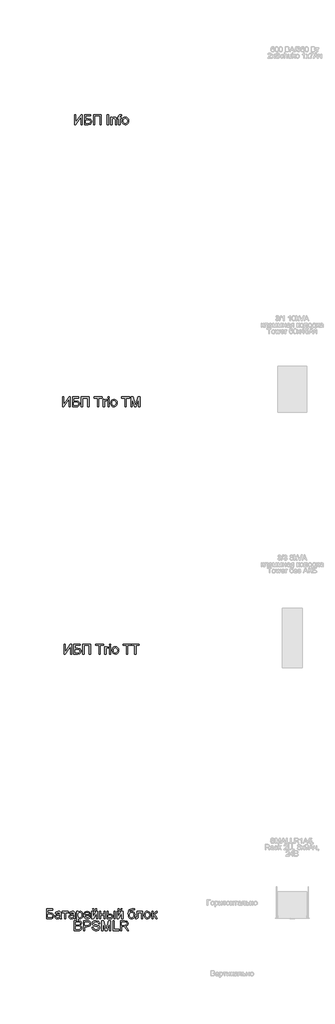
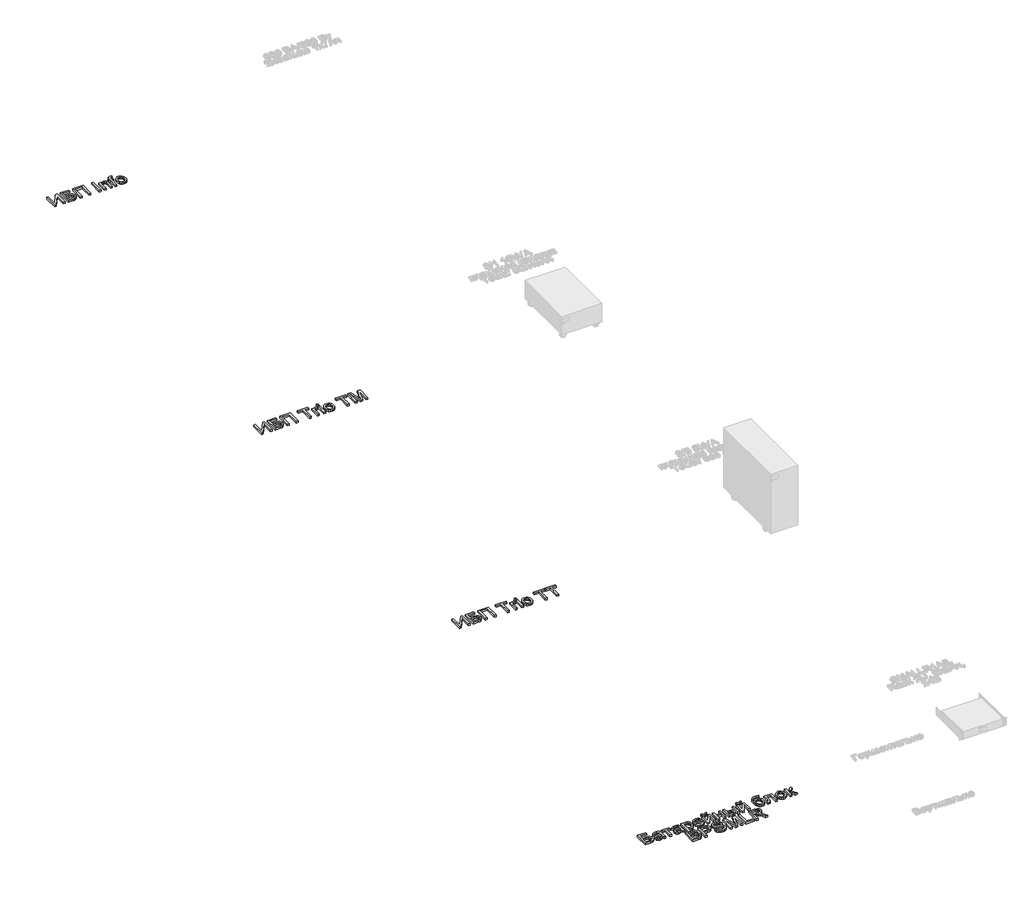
# One storey, part 7 of 74: 4 proxies.
"""IFC4 building model written with IfcOpenShell, lengths in millimetres."""

from ifc_helpers import new_model, si_unit, origin, origin_with_axes, place, context, project, spatial, polyline, outline, extrude, element, save

model = new_model("IFC4")

# Units and contexts
model_context = context("Model", 3, world=origin())
ifc_project = project(units=[si_unit("LENGTHUNIT", "METRE", prefix="MILLI")], contexts=[model_context])

# Site, building, storey
site = spatial("IfcSite", under=ifc_project)
building = spatial("IfcBuilding", under=site)
storey = spatial("IfcBuildingStorey", under=building, Name="Этаж 01", Elevation=0.0)

# Proxies
placement = place(None, origin())
element("IfcBuildingElementProxy", 1, Name="150 мм Arial", ObjectType="150 мм Arial", at=placement, inside=storey, context=model_context, shape_type="SweptSolid", body=[
    extrude(outline(polyline([(-1970.8871064, -11984.3646138), (-1952.0515483, -11984.3646138), (-1952.0515483, -12103.705533), (-1873.1776485, -11984.3646138), (-1853.164868, -11984.3646138), (-1853.164868, -12135.049079), (-1872.0004261, -12135.049079), (-1872.0004261, -12016.0392536), (-1950.6903849, -12135.049079), (-1970.8871064, -12135.049079), (-1970.8871064, -11984.3646138)])), origin_with_axes(), (0.0, 0.0, 1.0), 20.0),
    extrude(outline(polyline([(-1820.2026412, -11984.3646138), (-1726.0248504, -11984.3646138), (-1726.0248504, -12003.2001719), (-1801.367083, -12003.2001719), (-1801.367083, -12047.9346225), (-1766.0871997, -12047.9346225), (-1735.0011711, -12051.7605953), (-1724.5993077, -12057.2880223), (-1716.4967068, -12066.2183577), (-1711.2819795, -12077.7146701), (-1709.5437371, -12090.9400278), (-1714.4917499, -12112.4059422), (-1729.262212, -12128.7215087), (-1742.533555, -12133.4671864), (-1762.7026854, -12135.049079), (-1820.2026412, -12135.049079), (-1820.2026412, -11984.3646138)]), holes=[polyline([(-1801.367083, -12116.2135209), (-1761.0104282, -12116.2135209), (-1746.7458038, -12114.6592194), (-1736.5462755, -12109.9963151), (-1730.4210403, -12102.224808), (-1728.3792952, -12091.344698), (-1733.0513965, -12076.59263), (-1746.0560251, -12068.7199553), (-1774.438121, -12066.7701807), (-1801.367083, -12066.7701807), (-1801.367083, -12116.2135209)])]), origin_with_axes(), (0.0, 0.0, 1.0), 20.0),
    extrude(outline(polyline([(-1683.6448446, -11984.3646138), (-1565.9226061, -11984.3646138), (-1565.9226061, -12135.049079), (-1584.7581643, -12135.049079), (-1584.7581643, -12003.2001719), (-1664.8092864, -12003.2001719), (-1664.8092864, -12135.049079), (-1683.6448446, -12135.049079), (-1683.6448446, -11984.3646138)])), origin_with_axes(), (0.0, 0.0, 1.0), 20.0),
    extrude(outline(polyline([(-1471.7448154, -12135.049079), (-1471.7448154, -11984.3646138), (-1452.9092572, -11984.3646138), (-1452.9092572, -12135.049079), (-1471.7448154, -12135.049079)])), origin_with_axes(), (0.0, 0.0, 1.0), 20.0),
    extrude(outline(polyline([(-1417.5925857, -12135.049079), (-1417.5925857, -12024.3901749), (-1398.7570275, -12024.3901749), (-1398.7570275, -12039.8412187), (-1384.3544474, -12026.4871022), (-1364.6911548, -12022.0357301), (-1346.9040603, -12025.6225795), (-1334.7639545, -12035.0403586), (-1329.1169658, -12048.8911157), (-1328.1236845, -12067.1012745), (-1328.1236845, -12135.049079), (-1346.9592426, -12135.049079), (-1346.9592426, -12069.6396603), (-1349.1297464, -12052.9746059), (-1356.800086, -12044.1638321), (-1369.7311381, -12040.8712882), (-1380.7629994, -12042.7198953), (-1390.1669829, -12048.2657163), (-1396.6095164, -12058.9802795), (-1398.7570275, -12076.3351126), (-1398.7570275, -12135.049079), (-1417.5925857, -12135.049079)])), origin_with_axes(), (0.0, 0.0, 1.0), 20.0),
    extrude(outline(polyline([(-1297.5159025, -12135.049079), (-1297.5159025, -12043.225733), (-1313.9970158, -12043.225733), (-1313.9970158, -12024.3901749), (-1297.5159025, -12024.3901749), (-1297.5159025, -12013.2433504), (-1295.5293397, -11997.5347892), (-1285.8908314, -11986.3143884), (-1266.9081205, -11982.010169), (-1249.7280313, -11984.0703082), (-1252.4871462, -12001.728644), (-1263.3396651, -12000.8457272), (-1275.2038594, -12003.9727241), (-1278.6803443, -12015.6345834), (-1278.6803443, -12024.3901749), (-1257.4903414, -12024.3901749), (-1257.4903414, -12043.225733), (-1278.6803443, -12043.225733), (-1278.6803443, -12135.049079), (-1297.5159025, -12135.049079)])), origin_with_axes(), (0.0, 0.0, 1.0), 20.0),
    extrude(outline(polyline([(-1245.7181175, -12079.7196269), (-1241.6438244, -12053.0389852), (-1229.4209451, -12034.2862005), (-1214.3193892, -12025.0983477), (-1196.2379892, -12022.0357301), (-1176.4505364, -12025.7651338), (-1160.6454061, -12036.953345), (-1150.2849295, -12054.7174468), (-1146.8314372, -12078.1745225), (-1148.3581475, -12097.2032187), (-1152.9382783, -12111.6885723), (-1160.4384725, -12122.5364926), (-1170.7253728, -12130.6528892), (-1182.9436536, -12135.7158651), (-1196.2379892, -12137.4035238), (-1216.2645653, -12133.6879156), (-1232.0513014, -12122.5410912), (-1242.3014135, -12104.4045088), (-1245.7181175, -12079.7196269)]), holes=[polyline([(-1226.8825594, -12079.6828387), (-1224.7028586, -12096.7295707), (-1218.1637561, -12108.874275), (-1208.3229127, -12116.144543), (-1196.2379892, -12118.5679656), (-1184.2082479, -12116.1307474), (-1174.3857987, -12108.8190927), (-1167.8466962, -12096.51344), (-1165.6669954, -12079.0942275), (-1167.8604918, -12062.5441363), (-1174.440981, -12050.5649788), (-1184.2772258, -12043.2947109), (-1196.2379892, -12040.8712882), (-1208.3229127, -12043.2855138), (-1218.1637561, -12050.5281906), (-1224.7028586, -12062.6453038), (-1226.8825594, -12079.6828387)])]), origin_with_axes(), (0.0, 0.0, 1.0), 20.0),
])
element("IfcBuildingElementProxy", 2, Name="150 мм Arial", ObjectType="150 мм Arial", at=placement, inside=storey, context=model_context, shape_type="SweptSolid", body=[
    extrude(outline(polyline([(-2154.5337984, -16284.3646138), (-2135.6982403, -16284.3646138), (-2135.6982403, -16403.705533), (-2056.8243405, -16284.3646138), (-2036.81156, -16284.3646138), (-2036.81156, -16435.049079), (-2055.6471181, -16435.049079), (-2055.6471181, -16316.0392536), (-2134.3370769, -16435.049079), (-2154.5337984, -16435.049079), (-2154.5337984, -16284.3646138)])), origin_with_axes(), (0.0, 0.0, 1.0), 20.0),
    extrude(outline(polyline([(-2003.8493332, -16284.3646138), (-1909.6715424, -16284.3646138), (-1909.6715424, -16303.2001719), (-1985.013775, -16303.2001719), (-1985.013775, -16347.9346225), (-1949.7338917, -16347.9346225), (-1918.6478631, -16351.7605953), (-1908.2459997, -16357.2880223), (-1900.1433988, -16366.2183577), (-1894.9286715, -16377.7146701), (-1893.190429, -16390.9400278), (-1898.1384419, -16412.4059422), (-1912.908904, -16428.7215087), (-1926.180247, -16433.4671864), (-1946.3493773, -16435.049079), (-2003.8493332, -16435.049079), (-2003.8493332, -16284.3646138)]), holes=[polyline([(-1985.013775, -16416.2135209), (-1944.6571202, -16416.2135209), (-1930.3924958, -16414.6592194), (-1920.1929675, -16409.9963151), (-1914.0677323, -16402.224808), (-1912.0259872, -16391.344698), (-1916.6980885, -16376.59263), (-1929.7027171, -16368.7199553), (-1958.084813, -16366.7701807), (-1985.013775, -16366.7701807), (-1985.013775, -16416.2135209)])]), origin_with_axes(), (0.0, 0.0, 1.0), 20.0),
    extrude(outline(polyline([(-1867.2915366, -16284.3646138), (-1749.5692981, -16284.3646138), (-1749.5692981, -16435.049079), (-1768.4048563, -16435.049079), (-1768.4048563, -16303.2001719), (-1848.4559784, -16303.2001719), (-1848.4559784, -16435.049079), (-1867.2915366, -16435.049079), (-1867.2915366, -16284.3646138)])), origin_with_axes(), (0.0, 0.0, 1.0), 20.0),
    extrude(outline(polyline([(-1620.0748358, -16435.049079), (-1620.0748358, -16303.2001719), (-1669.518176, -16303.2001719), (-1669.518176, -16284.3646138), (-1551.7959375, -16284.3646138), (-1551.7959375, -16303.2001719), (-1601.2392777, -16303.2001719), (-1601.2392777, -16435.049079), (-1620.0748358, -16435.049079)])), origin_with_axes(), (0.0, 0.0, 1.0), 20.0),
    extrude(outline(polyline([(-1532.9603794, -16435.049079), (-1532.9603794, -16324.3901749), (-1516.479266, -16324.3901749), (-1516.479266, -16340.7609236), (-1504.7806185, -16325.6777618), (-1493.0083947, -16322.0357301), (-1474.0992601, -16327.8482656), (-1480.3900423, -16344.7340492), (-1493.6337941, -16340.8712882), (-1504.2839778, -16344.5868964), (-1511.0714007, -16354.8875923), (-1514.1248212, -16376.8869356), (-1514.1248212, -16435.049079), (-1532.9603794, -16435.049079)])), origin_with_axes(), (0.0, 0.0, 1.0), 20.0),
    extrude(outline(polyline([(-1462.3270363, -16303.2001719), (-1462.3270363, -16284.3646138), (-1443.4914781, -16284.3646138), (-1443.4914781, -16303.2001719), (-1462.3270363, -16303.2001719)])), origin_with_axes(), (0.0, 0.0, 1.0), 20.0),
    extrude(outline(polyline([(-1462.3270363, -16435.049079), (-1462.3270363, -16324.3901749), (-1443.4914781, -16324.3901749), (-1443.4914781, -16435.049079), (-1462.3270363, -16435.049079)])), origin_with_axes(), (0.0, 0.0, 1.0), 20.0),
    extrude(outline(polyline([(-1419.9470304, -16379.7196269), (-1415.8727374, -16353.0389852), (-1403.6498581, -16334.2862005), (-1388.5483022, -16325.0983477), (-1370.4669021, -16322.0357301), (-1350.6794493, -16325.7651338), (-1334.8743191, -16336.953345), (-1324.5138424, -16354.7174468), (-1321.0603501, -16378.1745225), (-1322.5870604, -16397.2032187), (-1327.1671913, -16411.6885723), (-1334.6673854, -16422.5364926), (-1344.9542857, -16430.6528892), (-1357.1725665, -16435.7158651), (-1370.4669021, -16437.4035238), (-1390.4934782, -16433.6879156), (-1406.2802143, -16422.5410912), (-1416.5303264, -16404.4045088), (-1419.9470304, -16379.7196269)]), holes=[polyline([(-1401.1114723, -16379.6828387), (-1398.9317715, -16396.7295707), (-1392.392669, -16408.874275), (-1382.5518256, -16416.144543), (-1370.4669021, -16418.5679656), (-1358.4371609, -16416.1307474), (-1348.6147116, -16408.8190927), (-1342.0756091, -16396.51344), (-1339.8959083, -16379.0942275), (-1342.0894047, -16362.5441363), (-1348.6698939, -16350.5649788), (-1358.5061387, -16343.2947109), (-1370.4669021, -16340.8712882), (-1382.5518256, -16343.2855138), (-1392.392669, -16350.5281906), (-1398.9317715, -16362.6453038), (-1401.1114723, -16379.6828387)])]), origin_with_axes(), (0.0, 0.0, 1.0), 20.0),
    extrude(outline(polyline([(-1200.9836669, -16435.049079), (-1200.9836669, -16303.2001719), (-1250.4270071, -16303.2001719), (-1250.4270071, -16284.3646138), (-1132.7047686, -16284.3646138), (-1132.7047686, -16303.2001719), (-1182.1481088, -16303.2001719), (-1182.1481088, -16435.049079), (-1200.9836669, -16435.049079)])), origin_with_axes(), (0.0, 0.0, 1.0), 20.0),
    extrude(outline(polyline([(-1111.5147657, -16435.049079), (-1111.5147657, -16284.3646138), (-1079.1043619, -16284.3646138), (-1048.2758507, -16390.5721458), (-1042.058645, -16412.7554301), (-1035.3264045, -16388.7327358), (-1005.0129281, -16284.3646138), (-972.6025243, -16284.3646138), (-972.6025243, -16435.049079), (-991.4380825, -16435.049079), (-991.4380825, -16303.2001719), (-1029.2931398, -16435.049079), (-1054.8241502, -16435.049079), (-1092.6792075, -16303.2001719), (-1092.6792075, -16435.049079), (-1111.5147657, -16435.049079)])), origin_with_axes(), (0.0, 0.0, 1.0), 20.0),
])
element("IfcBuildingElementProxy", 3, Name="150 мм Arial", ObjectType="150 мм Arial", at=placement, inside=storey, context=model_context, shape_type="SweptSolid", body=[
    extrude(outline(polyline([(-2132.1665731, -20053.7853321), (-2113.331015, -20053.7853321), (-2113.331015, -20173.1262513), (-2034.4571152, -20053.7853321), (-2014.4443347, -20053.7853321), (-2014.4443347, -20204.4697973), (-2033.2798928, -20204.4697973), (-2033.2798928, -20085.4599719), (-2111.9698516, -20204.4697973), (-2132.1665731, -20204.4697973), (-2132.1665731, -20053.7853321)])), origin_with_axes(), (0.0, 0.0, 1.0), 20.0),
    extrude(outline(polyline([(-1981.4821079, -20053.7853321), (-1887.3043171, -20053.7853321), (-1887.3043171, -20072.6208903), (-1962.6465497, -20072.6208903), (-1962.6465497, -20117.3553409), (-1927.3666664, -20117.3553409), (-1896.2806378, -20121.1813136), (-1885.8787744, -20126.7087406), (-1877.7761734, -20135.639076), (-1872.5614462, -20147.1353884), (-1870.8232037, -20160.3607461), (-1875.7712166, -20181.8266605), (-1890.5416787, -20198.142227), (-1903.8130217, -20202.8879047), (-1923.982152, -20204.4697973), (-1981.4821079, -20204.4697973), (-1981.4821079, -20053.7853321)]), holes=[polyline([(-1962.6465497, -20185.6342392), (-1922.2898949, -20185.6342392), (-1908.0252705, -20184.0799377), (-1897.8257422, -20179.4170335), (-1891.700507, -20171.6455263), (-1889.6587619, -20160.7654163), (-1894.3308632, -20146.0133483), (-1907.3354918, -20138.1406736), (-1935.7175877, -20136.190899), (-1962.6465497, -20136.190899), (-1962.6465497, -20185.6342392)])]), origin_with_axes(), (0.0, 0.0, 1.0), 20.0),
    extrude(outline(polyline([(-1844.9243113, -20053.7853321), (-1727.2020728, -20053.7853321), (-1727.2020728, -20204.4697973), (-1746.037631, -20204.4697973), (-1746.037631, -20072.6208903), (-1826.0887531, -20072.6208903), (-1826.0887531, -20204.4697973), (-1844.9243113, -20204.4697973), (-1844.9243113, -20053.7853321)])), origin_with_axes(), (0.0, 0.0, 1.0), 20.0),
    extrude(outline(polyline([(-1597.7076105, -20204.4697973), (-1597.7076105, -20072.6208903), (-1647.1509507, -20072.6208903), (-1647.1509507, -20053.7853321), (-1529.4287122, -20053.7853321), (-1529.4287122, -20072.6208903), (-1578.8720524, -20072.6208903), (-1578.8720524, -20204.4697973), (-1597.7076105, -20204.4697973)])), origin_with_axes(), (0.0, 0.0, 1.0), 20.0),
    extrude(outline(polyline([(-1510.5931541, -20204.4697973), (-1510.5931541, -20093.8108932), (-1494.1120407, -20093.8108932), (-1494.1120407, -20110.181642), (-1482.4133932, -20095.0984802), (-1470.6411694, -20091.4564484), (-1451.7320348, -20097.2689839), (-1458.0228169, -20114.1547675), (-1471.2665688, -20110.2920066), (-1481.9167525, -20114.0076147), (-1488.7041753, -20124.3083106), (-1491.7575959, -20146.3076539), (-1491.7575959, -20204.4697973), (-1510.5931541, -20204.4697973)])), origin_with_axes(), (0.0, 0.0, 1.0), 20.0),
    extrude(outline(polyline([(-1439.959811, -20072.6208903), (-1439.959811, -20053.7853321), (-1421.1242528, -20053.7853321), (-1421.1242528, -20072.6208903), (-1439.959811, -20072.6208903)])), origin_with_axes(), (0.0, 0.0, 1.0), 20.0),
    extrude(outline(polyline([(-1439.959811, -20204.4697973), (-1439.959811, -20093.8108932), (-1421.1242528, -20093.8108932), (-1421.1242528, -20204.4697973), (-1439.959811, -20204.4697973)])), origin_with_axes(), (0.0, 0.0, 1.0), 20.0),
    extrude(outline(polyline([(-1397.5798051, -20149.1403452), (-1393.505512, -20122.4597035), (-1381.2826328, -20103.7069188), (-1366.1810769, -20094.519066), (-1348.0996768, -20091.4564484), (-1328.312224, -20095.1858521), (-1312.5070938, -20106.3740633), (-1302.1466171, -20124.1381652), (-1298.6931248, -20147.5952409), (-1300.2198351, -20166.6239371), (-1304.799966, -20181.1092906), (-1312.3001601, -20191.957211), (-1322.5870604, -20200.0736075), (-1334.8053412, -20205.1365834), (-1348.0996768, -20206.8242421), (-1368.1262529, -20203.1086339), (-1383.912989, -20191.9618095), (-1394.1631011, -20173.8252271), (-1397.5798051, -20149.1403452)]), holes=[polyline([(-1378.744247, -20149.1035571), (-1376.5645462, -20166.150289), (-1370.0254437, -20178.2949934), (-1360.1846003, -20185.5652613), (-1348.0996768, -20187.9886839), (-1336.0699355, -20185.5514657), (-1326.2474863, -20178.2398111), (-1319.7083838, -20165.9341583), (-1317.528683, -20148.5149459), (-1319.7221794, -20131.9648546), (-1326.3026686, -20119.9856971), (-1336.1389134, -20112.7154292), (-1348.0996768, -20110.2920066), (-1360.1846003, -20112.7062322), (-1370.0254437, -20119.9489089), (-1376.5645462, -20132.0660221), (-1378.744247, -20149.1035571)])]), origin_with_axes(), (0.0, 0.0, 1.0), 20.0),
    extrude(outline(polyline([(-1178.6164416, -20204.4697973), (-1178.6164416, -20072.6208903), (-1228.0597818, -20072.6208903), (-1228.0597818, -20053.7853321), (-1110.3375433, -20053.7853321), (-1110.3375433, -20072.6208903), (-1159.7808835, -20072.6208903), (-1159.7808835, -20204.4697973), (-1178.6164416, -20204.4697973)])), origin_with_axes(), (0.0, 0.0, 1.0), 20.0),
    extrude(outline(polyline([(-1051.4764241, -20204.4697973), (-1051.4764241, -20072.6208903), (-1100.9197642, -20072.6208903), (-1100.9197642, -20053.7853321), (-983.1975258, -20053.7853321), (-983.1975258, -20072.6208903), (-1032.6408659, -20072.6208903), (-1032.6408659, -20204.4697973), (-1051.4764241, -20204.4697973)])), origin_with_axes(), (0.0, 0.0, 1.0), 20.0),
])
element("IfcBuildingElementProxy", 4, Name="150 мм Arial", ObjectType="150 мм Arial", at=placement, inside=storey, context=model_context, shape_type="SweptSolid", body=[
    extrude(outline(polyline([(-2399.3960544, -24086.4527248), (-2305.2182636, -24086.4527248), (-2305.2182636, -24105.2882829), (-2380.5604963, -24105.2882829), (-2380.5604963, -24150.0227335), (-2345.2806129, -24150.0227335), (-2314.1945843, -24153.8487063), (-2303.7927209, -24159.3761333), (-2295.69012, -24168.3064687), (-2290.4753927, -24179.802781), (-2288.7371503, -24193.0281388), (-2293.6851631, -24214.4940532), (-2308.4556252, -24230.8096197), (-2321.7269682, -24235.5552974), (-2341.8960986, -24237.13719), (-2399.3960544, -24237.13719), (-2399.3960544, -24086.4527248)]), holes=[polyline([(-2380.5604963, -24218.3016318), (-2340.2038414, -24218.3016318), (-2325.939217, -24216.7473304), (-2315.7396887, -24212.0844261), (-2309.6144535, -24204.312919), (-2307.5727084, -24193.432809), (-2312.2448098, -24178.680741), (-2325.2494383, -24170.8080663), (-2353.6315342, -24168.8582917), (-2380.5604963, -24168.8582917), (-2380.5604963, -24218.3016318)])]), origin_with_axes(), (0.0, 0.0, 1.0), 20.0),
    extrude(outline(polyline([(-2194.5593595, -24223.0105214), (-2212.8247006, -24235.7760266), (-2233.003028, -24239.4916348), (-2248.7437789, -24237.2567516), (-2260.3550543, -24230.5521023), (-2267.5149577, -24220.3709681), (-2269.9015921, -24207.7066304), (-2266.2963486, -24192.8074096), (-2256.8233872, -24181.9916789), (-2243.6348176, -24175.8112614), (-2227.3376453, -24172.97857), (-2194.6697241, -24166.5038469), (-2194.5593595, -24162.3099922), (-2195.8561435, -24153.9038886), (-2199.7464956, -24148.4040528), (-2208.4469048, -24144.3205626), (-2220.5686166, -24142.9593992), (-2239.6249039, -24146.5830369), (-2248.7115892, -24159.4405126), (-2267.5471473, -24157.0860678), (-2259.3985611, -24138.6919681), (-2242.9910242, -24127.9130256), (-2218.1405954, -24124.1238411), (-2195.3135176, -24127.4715672), (-2182.4192537, -24135.8776708), (-2176.6435063, -24148.6615702), (-2175.7238013, -24165.1426835), (-2175.7238013, -24188.5767666), (-2174.7673082, -24221.2998701), (-2171.0149118, -24237.13719), (-2189.85047, -24237.13719), (-2194.5593595, -24223.0105214)]), holes=[polyline([(-2194.5593595, -24185.3394051), (-2224.9464123, -24191.1151524), (-2241.1516142, -24194.168573), (-2248.49086, -24199.1349799), (-2251.066034, -24206.3822552), (-2245.4558335, -24216.5725865), (-2228.9931142, -24220.6560766), (-2209.9368269, -24216.1495222), (-2197.6495683, -24205.241821), (-2194.6697241, -24190.673694), (-2194.5593595, -24185.3394051)])]), origin_with_axes(), (0.0, 0.0, 1.0), 20.0),
    extrude(outline(polyline([(-2159.242688, -24126.4782858), (-2069.7737867, -24126.4782858), (-2069.7737867, -24145.313844), (-2105.0904583, -24145.313844), (-2105.0904583, -24237.13719), (-2123.9260164, -24237.13719), (-2123.9260164, -24145.313844), (-2159.242688, -24145.313844), (-2159.242688, -24126.4782858)])), origin_with_axes(), (0.0, 0.0, 1.0), 20.0),
    extrude(outline(polyline([(-1982.6593303, -24223.0105214), (-2000.9246713, -24235.7760266), (-2021.1029988, -24239.4916348), (-2036.8437496, -24237.2567516), (-2048.4550251, -24230.5521023), (-2055.6149284, -24220.3709681), (-2058.0015629, -24207.7066304), (-2054.3963193, -24192.8074096), (-2044.923358, -24181.9916789), (-2031.7347884, -24175.8112614), (-2015.437616, -24172.97857), (-1982.7696949, -24166.5038469), (-1982.6593303, -24162.3099922), (-1983.9561143, -24153.9038886), (-1987.8464664, -24148.4040528), (-1996.5468756, -24144.3205626), (-2008.6685873, -24142.9593992), (-2027.7248747, -24146.5830369), (-2036.81156, -24159.4405126), (-2055.6471181, -24157.0860678), (-2047.4985319, -24138.6919681), (-2031.0909949, -24127.9130256), (-2006.2405662, -24124.1238411), (-1983.4134884, -24127.4715672), (-1970.5192244, -24135.8776708), (-1964.7434771, -24148.6615702), (-1963.8237721, -24165.1426835), (-1963.8237721, -24188.5767666), (-1962.8672789, -24221.2998701), (-1959.1148826, -24237.13719), (-1977.9504407, -24237.13719), (-1982.6593303, -24223.0105214)]), holes=[polyline([(-1982.6593303, -24185.3394051), (-2013.0463831, -24191.1151524), (-2029.251585, -24194.168573), (-2036.5908308, -24199.1349799), (-2039.1660047, -24206.3822552), (-2033.5558043, -24216.5725865), (-2017.093085, -24220.6560766), (-1998.0367977, -24216.1495222), (-1985.749539, -24205.241821), (-1982.7696949, -24190.673694), (-1982.6593303, -24185.3394051)])]), origin_with_axes(), (0.0, 0.0, 1.0), 20.0),
    extrude(outline(polyline([(-1937.9248797, -24279.5171958), (-1937.9248797, -24126.4782858), (-1919.0893215, -24126.4782858), (-1919.0893215, -24144.945962), (-1906.0662989, -24129.3293713), (-1888.4815395, -24124.1238411), (-1875.7436254, -24125.944857), (-1864.605998, -24131.4079046), (-1855.5377068, -24140.1818902), (-1849.0078014, -24151.9357199), (-1843.7470889, -24180.9616093), (-1845.2324124, -24197.0702422), (-1849.6883831, -24211.4774208), (-1856.9724466, -24223.4519798), (-1866.9420487, -24232.2627536), (-1878.5533242, -24237.6844145), (-1890.7624079, -24239.4916348), (-1907.1515508, -24234.6539865), (-1919.0893215, -24222.4219102), (-1919.0893215, -24279.5171958), (-1937.9248797, -24279.5171958)]), holes=[polyline([(-1919.0893215, -24182.6906547), (-1917.052175, -24199.5764383), (-1910.9407353, -24211.3854503), (-1901.9230279, -24218.33842), (-1891.1670781, -24220.6560766), (-1880.2363843, -24218.2556466), (-1870.9887506, -24211.0543565), (-1864.6841729, -24198.8130831), (-1862.582647, -24181.2927031), (-1864.6335892, -24164.49889), (-1870.7864155, -24152.5243311), (-1879.7903274, -24145.3506322), (-1890.3945259, -24142.9593992), (-1901.0401111, -24145.5023835), (-1910.3889123, -24153.1313364), (-1916.9142192, -24165.6071346), (-1919.0893215, -24182.6906547)])]), origin_with_axes(), (0.0, 0.0, 1.0), 20.0),
    extrude(outline(polyline([(-1745.0811378, -24204.1749632), (-1726.6134616, -24206.529408), (-1733.2675272, -24220.4445445), (-1743.8855213, -24230.8464079), (-1758.2283206, -24237.330328), (-1776.0568018, -24239.4916348), (-1798.1573126, -24235.762231), (-1815.1626579, -24224.5740199), (-1826.0059797, -24206.6535682), (-1829.6204203, -24182.7274429), (-1825.9691915, -24157.9965758), (-1815.0155051, -24139.5013085), (-1798.2400861, -24127.9682079), (-1777.1236596, -24124.1238411), (-1756.6648221, -24127.9590109), (-1740.3170659, -24139.4645203), (-1729.5979043, -24157.9229994), (-1726.0248504, -24182.6170783), (-1726.135215, -24187.6938498), (-1810.7848621, -24187.6938498), (-1807.5245079, -24201.7929273), (-1799.9507374, -24212.1580025), (-1789.0200436, -24218.5315581), (-1775.6889198, -24220.6560766), (-1757.2212436, -24216.7197393), (-1745.0811378, -24204.1749632)]), holes=[polyline([(-1810.7848621, -24168.8582917), (-1744.8604086, -24168.8582917), (-1747.4079914, -24158.9070837), (-1752.4019895, -24151.7885671), (-1763.383267, -24145.1666912), (-1777.197236, -24142.9593992), (-1789.8937633, -24144.7206343), (-1800.3921958, -24150.0043394), (-1807.6900548, -24158.2402976), (-1810.7848621, -24168.8582917)])]), origin_with_axes(), (0.0, 0.0, 1.0), 20.0),
    extrude(outline(polyline([(-1645.9737283, -24086.4527248), (-1631.8470597, -24086.4527248), (-1634.8866847, -24098.5146557), (-1640.9889273, -24107.4036044), (-1649.877876, -24112.8804476), (-1661.2776193, -24114.706062), (-1673.6476514, -24112.8942432), (-1683.2401744, -24107.4587867), (-1689.797671, -24098.5836336), (-1693.0626237, -24086.4527248), (-1678.9359551, -24086.4527248), (-1673.6384543, -24097.0661203), (-1662.9698765, -24100.5793934), (-1651.271229, -24097.1764849), (-1645.9737283, -24086.4527248)])), origin_with_axes(), (0.0, 0.0, 1.0), 20.0),
    extrude(outline(polyline([(-1707.1892923, -24126.4782858), (-1688.3537341, -24126.4782858), (-1688.3537341, -24210.8704155), (-1642.0741791, -24126.4782858), (-1617.7203911, -24126.4782858), (-1617.7203911, -24237.13719), (-1636.5559492, -24237.13719), (-1636.5559492, -24153.2600951), (-1682.5411986, -24237.13719), (-1707.1892923, -24237.13719), (-1707.1892923, -24126.4782858)])), origin_with_axes(), (0.0, 0.0, 1.0), 20.0),
    extrude(outline(polyline([(-1589.4670538, -24126.4782858), (-1570.6314957, -24126.4782858), (-1570.6314957, -24168.8582917), (-1521.1881555, -24168.8582917), (-1521.1881555, -24126.4782858), (-1502.3525974, -24126.4782858), (-1502.3525974, -24237.13719), (-1521.1881555, -24237.13719), (-1521.1881555, -24187.6938498), (-1570.6314957, -24187.6938498), (-1570.6314957, -24237.13719), (-1589.4670538, -24237.13719), (-1589.4670538, -24126.4782858)])), origin_with_axes(), (0.0, 0.0, 1.0), 20.0),
    extrude(outline(polyline([(-1474.0992601, -24126.4782858), (-1455.263702, -24126.4782858), (-1455.263702, -24166.5038469), (-1431.9767717, -24166.5038469), (-1411.849028, -24168.8628902), (-1396.9360117, -24175.9400201), (-1387.7067721, -24187.1650195), (-1384.6303589, -24201.9676713), (-1387.2101314, -24215.4459479), (-1394.9494489, -24226.8181), (-1408.3541491, -24234.5574175), (-1427.9300697, -24237.13719), (-1474.0992601, -24237.13719), (-1474.0992601, -24126.4782858)]), holes=[polyline([(-1455.263702, -24218.3016318), (-1435.913109, -24218.3016318), (-1410.9339216, -24214.3469004), (-1405.3329182, -24209.2839244), (-1403.4659171, -24202.0044595), (-1409.0025411, -24190.4161766), (-1417.8822928, -24186.608598), (-1433.4482997, -24185.3394051), (-1455.263702, -24185.3394051), (-1455.263702, -24218.3016318)])]), origin_with_axes(), (0.0, 0.0, 1.0), 20.0),
    extrude(outline(polyline([(-1370.5036903, -24126.4782858), (-1351.6681321, -24126.4782858), (-1351.6681321, -24237.13719), (-1370.5036903, -24237.13719), (-1370.5036903, -24126.4782858)])), origin_with_axes(), (0.0, 0.0, 1.0), 20.0),
    extrude(outline(polyline([(-1262.1992309, -24086.4527248), (-1248.0725623, -24086.4527248), (-1251.1121873, -24098.5146557), (-1257.2144299, -24107.4036044), (-1266.1033786, -24112.8804476), (-1277.5031219, -24114.706062), (-1289.873154, -24112.8942432), (-1299.465677, -24107.4587867), (-1306.0231736, -24098.5836336), (-1309.2881263, -24086.4527248), (-1295.1614577, -24086.4527248), (-1289.863957, -24097.0661203), (-1279.1953791, -24100.5793934), (-1267.4967316, -24097.1764849), (-1262.1992309, -24086.4527248)])), origin_with_axes(), (0.0, 0.0, 1.0), 20.0),
    extrude(outline(polyline([(-1323.4147949, -24126.4782858), (-1304.5792368, -24126.4782858), (-1304.5792368, -24210.8704155), (-1258.2996818, -24126.4782858), (-1233.9458937, -24126.4782858), (-1233.9458937, -24237.13719), (-1252.7814518, -24237.13719), (-1252.7814518, -24153.2600951), (-1298.7667012, -24237.13719), (-1323.4147949, -24237.13719), (-1323.4147949, -24126.4782858)])), origin_with_axes(), (0.0, 0.0, 1.0), 20.0),
    extrude(outline(polyline([(-1069.1347598, -24084.09828), (-1052.6536465, -24084.09828), (-1057.5096888, -24098.7951657), (-1067.1114089, -24104.1110605), (-1090.17761, -24105.2882829), (-1121.2452445, -24109.6292905), (-1128.3729581, -24115.2762791), (-1133.1646211, -24123.5352299), (-1137.192929, -24148.1465354), (-1120.8773625, -24130.1203176), (-1110.9583442, -24125.6229602), (-1099.8529064, -24124.1238411), (-1080.2539932, -24127.9360183), (-1064.3522939, -24139.3725498), (-1053.8124747, -24157.3113956), (-1050.2992017, -24180.6305155), (-1052.0420426, -24198.6107481), (-1057.2705655, -24213.0409193), (-1073.8068612, -24232.5938474), (-1085.1008384, -24237.7671879), (-1099.8529064, -24239.4916348), (-1116.8536531, -24237.2705472), (-1129.5961658, -24230.6072846), (-1138.9725581, -24220.4813327), (-1145.874944, -24207.8721773), (-1150.1239811, -24188.8848678), (-1151.5403268, -24159.6244536), (-1147.9672729, -24123.4846461), (-1137.2481113, -24101.4439161), (-1119.1161274, -24090.2005226), (-1093.3046069, -24086.4527248), (-1072.3353332, -24086.0296605), (-1069.1347598, -24084.09828)]), holes=[polyline([(-1069.1347598, -24180.0419043), (-1071.1765049, -24165.2208585), (-1077.3017401, -24153.3520656), (-1087.1425835, -24145.5575658), (-1100.331153, -24142.9593992), (-1114.0807426, -24145.7047186), (-1124.2802709, -24153.9406768), (-1130.5986442, -24166.7659628), (-1132.7047686, -24183.2792659), (-1130.377915, -24199.2867312), (-1123.3973541, -24211.0359624), (-1113.0046878, -24218.2510481), (-1100.4415176, -24220.6560766), (-1087.8139682, -24217.873969), (-1077.8167749, -24209.5276463), (-1071.3052636, -24196.5919956), (-1069.1347598, -24180.0419043)])]), origin_with_axes(), (0.0, 0.0, 1.0), 20.0),
    extrude(outline(polyline([(-1017.3369749, -24126.4782858), (-932.5769632, -24126.4782858), (-932.5769632, -24237.0268254), (-951.4125214, -24237.0268254), (-951.4125214, -24145.313844), (-998.5014168, -24145.313844), (-998.5014168, -24198.1049103), (-999.7706097, -24222.4586984), (-1006.7419735, -24232.7410002), (-1023.2230869, -24237.13719), (-1038.5269778, -24236.1806968), (-1038.5269778, -24218.3016318), (-1030.1024802, -24218.3016318), (-1021.586012, -24217.1428036), (-1018.1831035, -24213.4639836), (-1017.3369749, -24197.0380525), (-1017.3369749, -24126.4782858)])), origin_with_axes(), (0.0, 0.0, 1.0), 20.0),
    extrude(outline(polyline([(-909.0325155, -24181.8077379), (-904.9582225, -24155.1270962), (-892.7353432, -24136.3743115), (-877.6337873, -24127.1864587), (-859.5523872, -24124.1238411), (-839.7649344, -24127.8532448), (-823.9598042, -24139.041456), (-813.5993275, -24156.8055578), (-810.1458352, -24180.2626335), (-811.6725455, -24199.2913297), (-816.2526764, -24213.7766833), (-823.7528705, -24224.6246036), (-834.0397708, -24232.7410002), (-846.2580516, -24237.8039761), (-859.5523872, -24239.4916348), (-879.5789633, -24235.7760266), (-895.3656994, -24224.6292022), (-905.6158115, -24206.4926198), (-909.0325155, -24181.8077379)]), holes=[polyline([(-890.1969574, -24181.7709497), (-888.0172566, -24198.8176817), (-881.4781541, -24210.962386), (-871.6373107, -24218.232654), (-859.5523872, -24220.6560766), (-847.522646, -24218.2188584), (-837.7001967, -24210.9072037), (-831.1610942, -24198.601551), (-828.9813934, -24181.1823385), (-831.1748898, -24164.6322473), (-837.755379, -24152.6530898), (-847.5916238, -24145.3828219), (-859.5523872, -24142.9593992), (-871.6373107, -24145.3736248), (-881.4781541, -24152.6163016), (-888.0172566, -24164.7334148), (-890.1969574, -24181.7709497)])]), origin_with_axes(), (0.0, 0.0, 1.0), 20.0),
    extrude(outline(polyline([(-788.9558323, -24126.4782858), (-770.1202742, -24126.4782858), (-770.1202742, -24173.5671812), (-757.5019217, -24170.1826669), (-747.1644377, -24150.4641919), (-738.5743931, -24133.4496497), (-730.996024, -24127.9130256), (-717.2188433, -24126.4782858), (-713.6135997, -24126.4782858), (-713.6135997, -24145.4242086), (-718.6903712, -24145.313844), (-727.8874211, -24147.3004068), (-734.3621442, -24159.69803), (-741.9589074, -24173.1073287), (-752.6090912, -24179.6740224), (-740.7265028, -24187.0040711), (-729.0646435, -24202.4459179), (-708.9047102, -24237.13719), (-730.3154423, -24237.13719), (-750.0707054, -24203.1816818), (-760.0035193, -24188.8158899), (-770.1202742, -24185.3394051), (-770.1202742, -24237.13719), (-788.9558323, -24237.13719), (-788.9558323, -24126.4782858)])), origin_with_axes(), (0.0, 0.0, 1.0), 20.0),
    extrude(outline(polyline([(-1974.4187736, -24420.0994168), (-1974.4187736, -24269.4149515), (-1916.9188177, -24269.4149515), (-1888.757451, -24273.8479296), (-1879.2936867, -24279.4719256), (-1872.1291848, -24287.4779575), (-1866.1143142, -24306.7549741), (-1871.1726916, -24324.3581275), (-1886.4581885, -24337.6938498), (-1875.7850121, -24343.2672621), (-1867.8985419, -24351.7469421), (-1863.028704, -24362.5718698), (-1861.4054247, -24375.1810252), (-1865.8384027, -24395.432929), (-1876.8196803, -24409.8539032), (-1893.2088231, -24417.5058487), (-1917.3602761, -24420.0994168), (-1974.4187736, -24420.0994168)]), holes=[polyline([(-1955.5832154, -24330.6305155), (-1921.1862489, -24330.6305155), (-1901.0998919, -24329.0118348), (-1889.0149684, -24322.040471), (-1884.9498724, -24309.7716064), (-1888.7390569, -24297.4843478), (-1899.5915758, -24290.2186784), (-1923.798211, -24288.2505097), (-1955.5832154, -24288.2505097), (-1955.5832154, -24330.6305155)]), polyline([(-1955.5832154, -24401.2638586), (-1916.9556059, -24401.2638586), (-1902.9760901, -24400.5280946), (-1891.148684, -24396.4262104), (-1883.3127975, -24388.056895), (-1880.2409828, -24375.3649662), (-1883.8462264, -24360.7232627), (-1895.5264797, -24351.9860654), (-1918.7950159, -24349.4660737), (-1955.5832154, -24349.4660737), (-1955.5832154, -24401.2638586)])]), origin_with_axes(), (0.0, 0.0, 1.0), 20.0),
    extrude(outline(polyline([(-1835.5065322, -24420.0994168), (-1835.5065322, -24269.4149515), (-1779.6620453, -24269.4149515), (-1757.1476672, -24270.8496913), (-1738.845538, -24277.8946315), (-1726.9813436, -24292.4627585), (-1722.4931833, -24313.008968), (-1725.5236112, -24330.7684713), (-1734.614895, -24345.5665245), (-1751.6156417, -24355.5545207), (-1778.3744583, -24358.8838528), (-1816.670974, -24358.8838528), (-1816.670974, -24420.0994168), (-1835.5065322, -24420.0994168)]), holes=[polyline([(-1816.670974, -24340.0482946), (-1777.2708124, -24340.0482946), (-1760.5689698, -24338.3192492), (-1749.5325099, -24333.1321131), (-1743.3796836, -24324.808783), (-1741.3287414, -24313.6711556), (-1746.1663897, -24298.072959), (-1758.8767126, -24289.5380967), (-1777.7122708, -24288.2505097), (-1816.670974, -24288.2505097), (-1816.670974, -24340.0482946)])]), origin_with_axes(), (0.0, 0.0, 1.0), 20.0),
    extrude(outline(polyline([(-1703.6576251, -24368.3016318), (-1684.822067, -24368.3016318), (-1678.7520141, -24387.1555841), (-1663.9263697, -24399.0749607), (-1641.3384151, -24403.6183034), (-1621.6567284, -24400.1786067), (-1608.9464055, -24390.7240394), (-1604.7709448, -24378.0872929), (-1607.8979418, -24366.3334632), (-1620.7002352, -24357.7802068), (-1648.125838, -24350.5881138), (-1677.6483681, -24341.2990934), (-1693.669629, -24327.2827894), (-1698.9487356, -24308.5575958), (-1697.3162592, -24297.5257345), (-1692.4188302, -24287.2388342), (-1684.3852071, -24278.5200309), (-1673.3441487, -24272.1924606), (-1645.4219053, -24267.0605068), (-1615.6234637, -24272.4315839), (-1604.2007277, -24279.0626569), (-1595.7578359, -24288.2137215), (-1590.41435, -24299.3145607), (-1588.2898314, -24311.7949574), (-1607.1253896, -24311.7949574), (-1610.5834803, -24300.5561624), (-1617.7939675, -24292.4443644), (-1629.0603536, -24287.5331398), (-1644.6861413, -24285.8960649), (-1660.679811, -24287.5147457), (-1671.6518915, -24292.370788), (-1677.997856, -24299.5168958), (-1680.1131774, -24308.0057728), (-1678.6140583, -24315.2438511), (-1674.1167009, -24321.0655837), (-1643.3617661, -24331.5870087), (-1610.0316574, -24341.041576), (-1599.2941016, -24347.8749841), (-1591.8031045, -24356.3086788), (-1587.4023161, -24366.2506897), (-1585.9353867, -24377.6090463), (-1587.6230453, -24389.2203218), (-1592.6860213, -24400.1418185), (-1600.9173809, -24409.5412035), (-1612.1101906, -24416.5861437), (-1625.5700731, -24420.9869321), (-1640.6026512, -24422.4538615), (-1659.0565317, -24420.871969), (-1674.2454596, -24416.1262912), (-1686.3441787, -24408.1984342), (-1695.527433, -24397.0700039), (-1701.422742, -24383.5135523), (-1703.6576251, -24368.3016318)])), origin_with_axes(), (0.0, 0.0, 1.0), 20.0),
    extrude(outline(polyline([(-1557.6820494, -24420.0994168), (-1557.6820494, -24269.4149515), (-1525.2716457, -24269.4149515), (-1494.4431345, -24375.6224835), (-1488.2259288, -24397.8057679), (-1481.4936882, -24373.7830736), (-1451.1802118, -24269.4149515), (-1418.7698081, -24269.4149515), (-1418.7698081, -24420.0994168), (-1437.6053662, -24420.0994168), (-1437.6053662, -24288.2505097), (-1475.4604235, -24420.0994168), (-1500.991434, -24420.0994168), (-1538.8464913, -24288.2505097), (-1538.8464913, -24420.0994168), (-1557.6820494, -24420.0994168)])), origin_with_axes(), (0.0, 0.0, 1.0), 20.0),
    extrude(outline(polyline([(-1385.8075813, -24420.0994168), (-1385.8075813, -24269.4149515), (-1366.9720231, -24269.4149515), (-1366.9720231, -24401.2638586), (-1291.6297905, -24401.2638586), (-1291.6297905, -24420.0994168), (-1385.8075813, -24420.0994168)])), origin_with_axes(), (0.0, 0.0, 1.0), 20.0),
    extrude(outline(polyline([(-1270.4397876, -24420.0994168), (-1270.4397876, -24269.4149515), (-1205.5086155, -24269.4149515), (-1175.360686, -24273.4800476), (-1166.0808626, -24279.1086421), (-1158.8795726, -24287.8642336), (-1154.258055, -24298.721351), (-1152.7175492, -24310.6545232), (-1155.2697305, -24325.4985617), (-1162.9262745, -24337.8042144), (-1175.9171075, -24346.8265204), (-1194.4721556, -24351.8205185), (-1183.7667895, -24359.8771342), (-1168.4996867, -24379.2645153), (-1143.3733465, -24420.0994168), (-1165.2623252, -24420.0994168), (-1184.8704355, -24388.8662354), (-1199.0338923, -24368.1912672), (-1208.9851003, -24358.4240003), (-1217.9430269, -24354.8371508), (-1228.8691222, -24354.1749632), (-1251.6042295, -24354.1749632), (-1251.6042295, -24420.0994168), (-1270.4397876, -24420.0994168)]), holes=[polyline([(-1251.6042295, -24335.3394051), (-1209.4449528, -24335.3394051), (-1187.9422502, -24332.6722606), (-1175.728568, -24324.1373983), (-1171.5531073, -24311.353499), (-1173.5442686, -24302.1656462), (-1179.5177525, -24294.762021), (-1189.7954557, -24289.8783875), (-1204.6992751, -24288.2505097), (-1251.6042295, -24288.2505097), (-1251.6042295, -24335.3394051)])]), origin_with_axes(), (0.0, 0.0, 1.0), 20.0),
])

save(model, "model.ifc")
